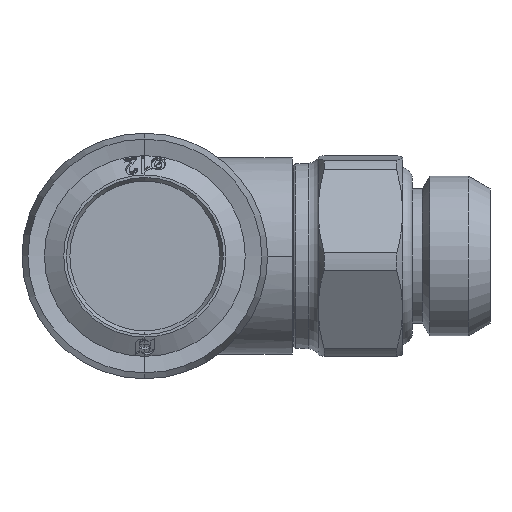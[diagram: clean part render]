
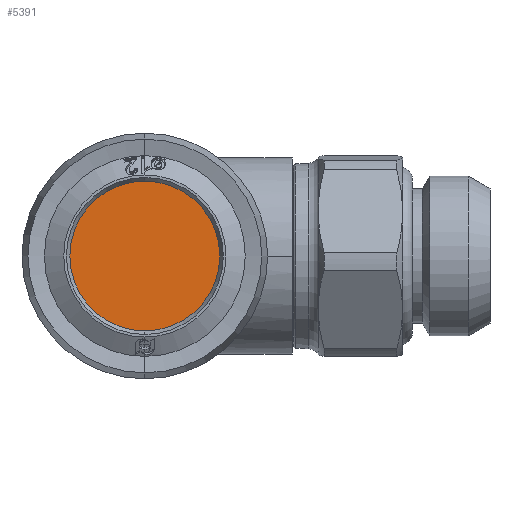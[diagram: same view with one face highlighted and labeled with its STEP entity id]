
A CAD part, left-side view. The second image highlights one B-rep face of the part: STEP entity #5391.
In plain terms, the highlighted planar face has unit normal (-1, 0, 0).
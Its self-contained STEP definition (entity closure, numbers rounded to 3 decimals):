
#1492 = CARTESIAN_POINT ( 'NONE',  ( -24.5, 0., 0. ) ) ;
#1494 = DIRECTION ( 'NONE',  ( 1., 0., 0. ) ) ;
#1496 = DIRECTION ( 'NONE',  ( 0., 0., -1. ) ) ;
#3044 = EDGE_CURVE ( 'NONE', #14477, #14475, #14579, .T. ) ;
#3788 = EDGE_CURVE ( 'NONE', #14475, #14477, #14622, .T. ) ;
#3964 = ORIENTED_EDGE ( 'NONE', *, *, #3788, .F. ) ;
#3965 = ORIENTED_EDGE ( 'NONE', *, *, #3044, .F. ) ;
#5391 = ADVANCED_FACE ( 'NONE', ( #14770 ), #17353, .F. ) ;
#7106 = CARTESIAN_POINT ( 'NONE',  ( -24.5, 0., 0. ) ) ;
#7107 = DIRECTION ( 'NONE',  ( 1., 0., 0. ) ) ;
#7108 = DIRECTION ( 'NONE',  ( 0., 0., -1. ) ) ;
#8417 = AXIS2_PLACEMENT_3D ( 'NONE', #7106, #7107, #7108 ) ;
#8452 = AXIS2_PLACEMENT_3D ( 'NONE', #1492, #1494, #1496 ) ;
#14188 = CARTESIAN_POINT ( 'NONE',  ( -24.5, 0., -6.1 ) ) ;
#14190 = CARTESIAN_POINT ( 'NONE',  ( -24.5, 0., 6.1 ) ) ;
#14410 = EDGE_LOOP ( 'NONE', ( #3964, #3965 ) ) ;
#14475 = VERTEX_POINT ( 'NONE', #14188 ) ;
#14477 = VERTEX_POINT ( 'NONE', #14190 ) ;
#14579 = CIRCLE ( 'NONE', #8417, 6.1 ) ;
#14622 = CIRCLE ( 'NONE', #8452, 6.1 ) ;
#14770 = FACE_OUTER_BOUND ( 'NONE', #14410, .T. ) ;
#17353 = PLANE ( 'NONE',  #18021 ) ;
#17361 = CARTESIAN_POINT ( 'NONE',  ( -24.5, 0., 0. ) ) ;
#17362 = DIRECTION ( 'NONE',  ( 1., 0., 0. ) ) ;
#17363 = DIRECTION ( 'NONE',  ( 0., 0., 1. ) ) ;
#18021 = AXIS2_PLACEMENT_3D ( 'NONE', #17361, #17362, #17363 ) ;
